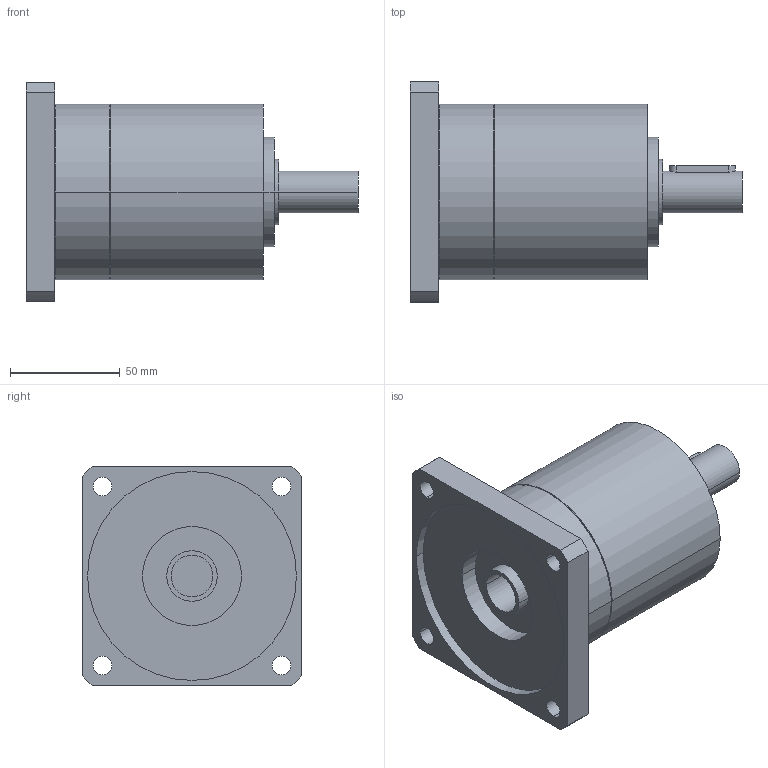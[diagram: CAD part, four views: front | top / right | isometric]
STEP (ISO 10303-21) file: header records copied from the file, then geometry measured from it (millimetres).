
FILE_DESCRIPTION(('CoCreate Modeling STEP Export'),'2;1');
FILE_NAME('GPR100_ig-3-4-5-6_19_B14_19_P07.stp','2014-08-26T10:08:36',(''),(''),'CoCreate Modeling STEP processor for AP214 (Solid Model)','CoCreate Modeling 16.00C 25-Feb-2009 (C) Parametric Technology GmbH','');
FILE_SCHEMA(('AUTOMOTIVE_DESIGN { 1 0 10303 214 1 1 1 1 }'));
Length unit declared in the file: millimetre
Products named in the file (2): GPR100_ig-3-4-5-6_19_B14_19_P07
Assembly tree (1 placements, depth 2):
  GPR100_ig-3-4-5-6_19_B14_19_P07
    GPR100_ig-3-4-5-6_19_B14_19_P07
Bounding box: 151 x 100 x 100 mm (x, y, z)
Volume: 570693.3 mm3; surface area: 59991.2 mm2
Topology: 1 solids, 1 shells, 70 faces, 190 edges, 134 vertices
Faces by surface type: cylinder 42, plane 22, cone 6
Entity records: 1949 total; most frequent: ORIENTED_EDGE 376, CARTESIAN_POINT 362, DIRECTION 262, EDGE_CURVE 188, VERTEX_POINT 134, AXIS2_PLACEMENT_3D 98, EDGE_LOOP 92, FACE_OUTER_BOUND 70
